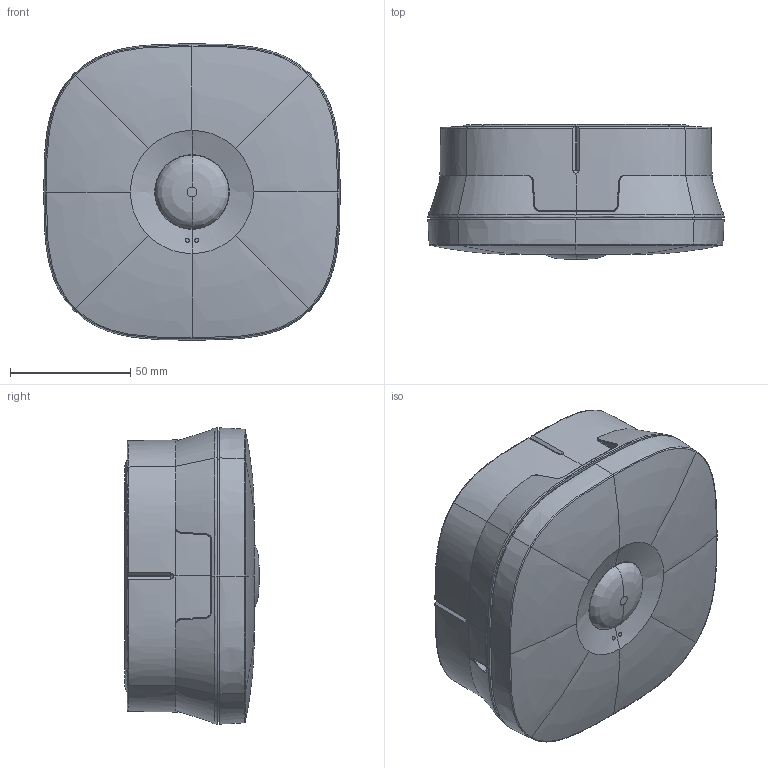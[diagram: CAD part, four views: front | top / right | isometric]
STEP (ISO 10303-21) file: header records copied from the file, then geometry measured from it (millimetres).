
FILE_DESCRIPTION((''),'2;1');
FILE_NAME('09814946Z','2022-11-04T09:26:17',('torbenh'),(''),'CREO PARAMETRIC BY PTC INC, 2021184','CREO PARAMETRIC BY PTC INC, 2021184','');
FILE_SCHEMA(('CONFIG_CONTROL_DESIGN'));
Length unit declared in the file: millimetre
Products named in the file (1): 09814946Z
Bounding box: 123.01 x 56 x 123.01 mm (x, y, z)
Volume: 621357.5 mm3; surface area: 49373.6 mm2
Topology: 1 solids, 1 shells, 360 faces, 865 edges, 535 vertices
Faces by surface type: bspline 163, plane 73, cylinder 70, cone 40, extrusion 8, torus 4, revolution 2
Entity records: 22307 total; most frequent: CARTESIAN_POINT 14987, ORIENTED_EDGE 1722, DIRECTION 1167, EDGE_CURVE 861, VERTEX_POINT 535, AXIS2_PLACEMENT_3D 451, EDGE_LOOP 392, FACE_OUTER_BOUND 360
